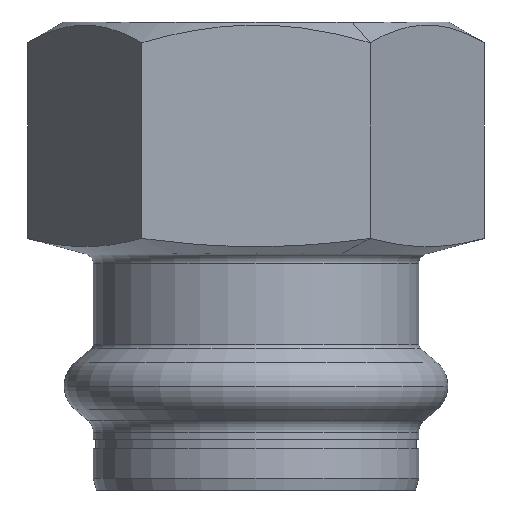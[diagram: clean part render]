
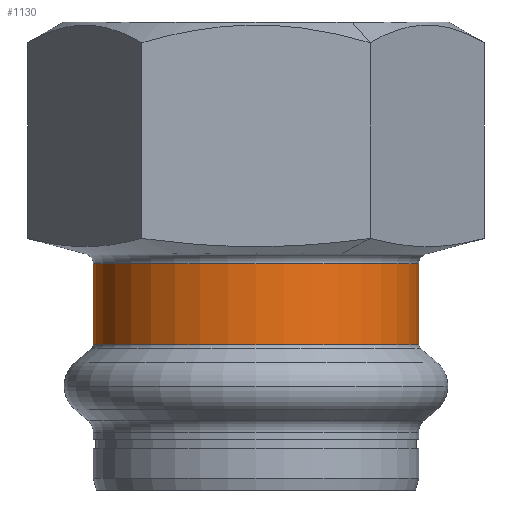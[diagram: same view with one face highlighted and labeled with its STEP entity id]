
A CAD part, front view. The second image highlights one B-rep face of the part: STEP entity #1130.
In plain terms, the highlighted cylindrical face has radius 15.65 mm (diameter 31.3 mm), a partial arc.
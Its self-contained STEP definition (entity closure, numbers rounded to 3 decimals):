
#530=CARTESIAN_POINT('',(-6.,6.017,0.));
#540=VERTEX_POINT('',#530);
#630=CARTESIAN_POINT('',(25.3,6.017,0.));
#640=VERTEX_POINT('',#630);
#670=CARTESIAN_POINT('',(9.65,6.017,0.));
#680=DIRECTION('',(0.,1.,0.));
#690=DIRECTION('',(1.,0.,0.));
#700=AXIS2_PLACEMENT_3D('',#670,#680,#690);
#710=CIRCLE('',#700,15.65);
#770=CARTESIAN_POINT('',(9.65,3.008,0.));
#780=DIRECTION('',(0.,-1.,0.));
#790=DIRECTION('',(1.,0.,0.));
#800=AXIS2_PLACEMENT_3D('',#770,#780,#790);
#810=CYLINDRICAL_SURFACE('',#800,15.65);
#820=CARTESIAN_POINT('',(25.3,3.008,0.));
#830=DIRECTION('',(0.,-1.,0.));
#840=VECTOR('',#830,1.);
#850=LINE('',#820,#840);
#860=CARTESIAN_POINT('',(25.3,-1.733,0.));
#870=VERTEX_POINT('',#860);
#880=EDGE_CURVE('',#640,#870,#850,.T.);
#890=ORIENTED_EDGE('',*,*,#880,.T.);
#900=EDGE_CURVE('',#640,#540,#710,.T.);
#910=ORIENTED_EDGE('',*,*,#900,.F.);
#920=CARTESIAN_POINT('',(-6.,3.008,
0.));
#930=DIRECTION('',(0.,-1.,0.));
#940=VECTOR('',#930,1.);
#950=LINE('',#920,#940);
#960=CARTESIAN_POINT('',(-6.,-1.733,0.));
#970=VERTEX_POINT('',#960);
#980=EDGE_CURVE('',#540,#970,#950,.T.);
#990=ORIENTED_EDGE('',*,*,#980,.F.);
#1000=CARTESIAN_POINT('',(9.65,-1.733,0.));
#1010=DIRECTION('',(0.,-1.,0.));
#1020=DIRECTION('',(1.,0.,0.));
#1030=AXIS2_PLACEMENT_3D('',#1000,#1010,#1020);
#1040=CIRCLE('',#1030,15.65);
#1050=CARTESIAN_POINT('',(9.65,-1.733,-15.65));
#1060=VERTEX_POINT('',#1050);
#1070=EDGE_CURVE('',#970,#1060,#1040,.T.);
#1080=ORIENTED_EDGE('',*,*,#1070,.F.);
#1090=EDGE_CURVE('',#1060,#870,#1040,.T.);
#1100=ORIENTED_EDGE('',*,*,#1090,.F.);
#1110=EDGE_LOOP('',(#1100,#1080,#990,#910,#890));
#1120=FACE_OUTER_BOUND('',#1110,.T.);
#1130=ADVANCED_FACE('',(#1120),#810,.T.);
